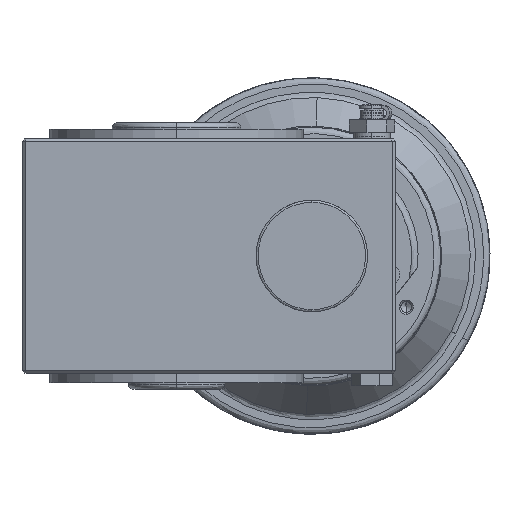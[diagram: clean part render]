
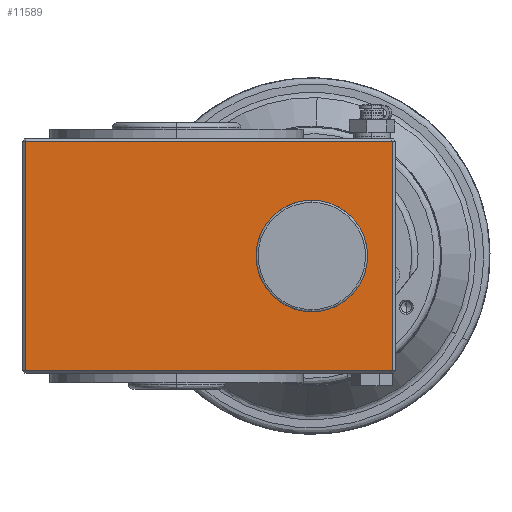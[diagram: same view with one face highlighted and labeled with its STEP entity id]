
A CAD part, left-side view. The second image highlights one B-rep face of the part: STEP entity #11589.
In plain terms, the highlighted planar face has unit normal (-1, 0, 0).
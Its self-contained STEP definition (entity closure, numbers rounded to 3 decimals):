
#9068 = CARTESIAN_POINT ( 'NONE',  ( -22.627, -112.685, 93.393 ) ) ;
#9138 = CARTESIAN_POINT ( 'NONE',  ( -22.627, -112.685, 41.393 ) ) ;
#9445 = CARTESIAN_POINT ( 'NONE',  ( -22.627, -150.185, 13.893 ) ) ;
#9466 = CARTESIAN_POINT ( 'NONE',  ( -22.627, -150.185, 120.893 ) ) ;
#9479 = CARTESIAN_POINT ( 'NONE',  ( -22.627, 20.815, 120.893 ) ) ;
#9530 = CARTESIAN_POINT ( 'NONE',  ( -22.627, 20.815, 13.893 ) ) ;
#11589 = ADVANCED_FACE ( 'NONE', ( #20255, #20217 ), #14132, .T. ) ;
#12973 = EDGE_CURVE ( 'NONE', #24310, #24378, #22334, .T. ) ;
#14132 = PLANE ( 'NONE',  #16485 ) ;
#14133 = CARTESIAN_POINT ( 'NONE',  ( -22.627, -151.685, 12.893 ) ) ;
#14134 = DIRECTION ( 'NONE',  ( -1., 0., 0. ) ) ;
#14136 = DIRECTION ( 'NONE',  ( 0., 0., 1. ) ) ;
#14698 = EDGE_CURVE ( 'NONE', #24684, #24702, #25136, .T. ) ;
#14759 = EDGE_CURVE ( 'NONE', #24378, #24310, #25205, .T. ) ;
#14764 = EDGE_CURVE ( 'NONE', #24686, #24684, #25232, .T. ) ;
#14779 = EDGE_CURVE ( 'NONE', #24702, #24743, #25223, .T. ) ;
#14789 = EDGE_CURVE ( 'NONE', #24743, #24686, #25236, .T. ) ;
#16485 = AXIS2_PLACEMENT_3D ( 'NONE', #14133, #14134, #14136 ) ;
#17164 = AXIS2_PLACEMENT_3D ( 'NONE', #21533, #21538, #21543 ) ;
#17523 = AXIS2_PLACEMENT_3D ( 'NONE', #26503, #26459, #26465 ) ;
#18932 = EDGE_LOOP ( 'NONE', ( #27988, #26120 ) ) ;
#19101 = EDGE_LOOP ( 'NONE', ( #27983, #27956, #28006, #27997 ) ) ;
#20217 = FACE_OUTER_BOUND ( 'NONE', #19101, .T. ) ;
#20255 = FACE_BOUND ( 'NONE', #18932, .T. ) ;
#21533 = CARTESIAN_POINT ( 'NONE',  ( -22.627, -112.685, 67.393 ) ) ;
#21538 = DIRECTION ( 'NONE',  ( 1., 0., 0. ) ) ;
#21543 = DIRECTION ( 'NONE',  ( 0., 0., 1. ) ) ;
#22334 = CIRCLE ( 'NONE', #17164, 26. ) ;
#23087 = CARTESIAN_POINT ( 'NONE',  ( -22.627, -151.685, 120.893 ) ) ;
#23098 = DIRECTION ( 'NONE',  ( 0., 1., 0. ) ) ;
#24310 = VERTEX_POINT ( 'NONE', #9068 ) ;
#24378 = VERTEX_POINT ( 'NONE', #9138 ) ;
#24684 = VERTEX_POINT ( 'NONE', #9466 ) ;
#24686 = VERTEX_POINT ( 'NONE', #9445 ) ;
#24702 = VERTEX_POINT ( 'NONE', #9479 ) ;
#24743 = VERTEX_POINT ( 'NONE', #9530 ) ;
#25120 = VECTOR ( 'NONE', #23098, 1000. ) ;
#25136 = LINE ( 'NONE', #23087, #25120 ) ;
#25205 = CIRCLE ( 'NONE', #17523, 26. ) ;
#25223 = LINE ( 'NONE', #26547, #25250 ) ;
#25232 = LINE ( 'NONE', #26482, #25259 ) ;
#25236 = LINE ( 'NONE', #26616, #25242 ) ;
#25242 = VECTOR ( 'NONE', #26643, 1000. ) ;
#25250 = VECTOR ( 'NONE', #26552, 1000. ) ;
#25259 = VECTOR ( 'NONE', #26432, 1000. ) ;
#26120 = ORIENTED_EDGE ( 'NONE', *, *, #14759, .T. ) ;
#26432 = DIRECTION ( 'NONE',  ( 0., 0., 1. ) ) ;
#26459 = DIRECTION ( 'NONE',  ( 1., 0., 0. ) ) ;
#26465 = DIRECTION ( 'NONE',  ( 0., 0., 1. ) ) ;
#26482 = CARTESIAN_POINT ( 'NONE',  ( -22.627, -150.185, 12.893 ) ) ;
#26503 = CARTESIAN_POINT ( 'NONE',  ( -22.627, -112.685, 67.393 ) ) ;
#26547 = CARTESIAN_POINT ( 'NONE',  ( -22.627, 20.815, 12.893 ) ) ;
#26552 = DIRECTION ( 'NONE',  ( 0., 0., -1. ) ) ;
#26616 = CARTESIAN_POINT ( 'NONE',  ( -22.627, -151.685, 13.893 ) ) ;
#26643 = DIRECTION ( 'NONE',  ( 0., -1., 0. ) ) ;
#27956 = ORIENTED_EDGE ( 'NONE', *, *, #14698, .T. ) ;
#27983 = ORIENTED_EDGE ( 'NONE', *, *, #14764, .T. ) ;
#27988 = ORIENTED_EDGE ( 'NONE', *, *, #12973, .T. ) ;
#27997 = ORIENTED_EDGE ( 'NONE', *, *, #14789, .T. ) ;
#28006 = ORIENTED_EDGE ( 'NONE', *, *, #14779, .T. ) ;
